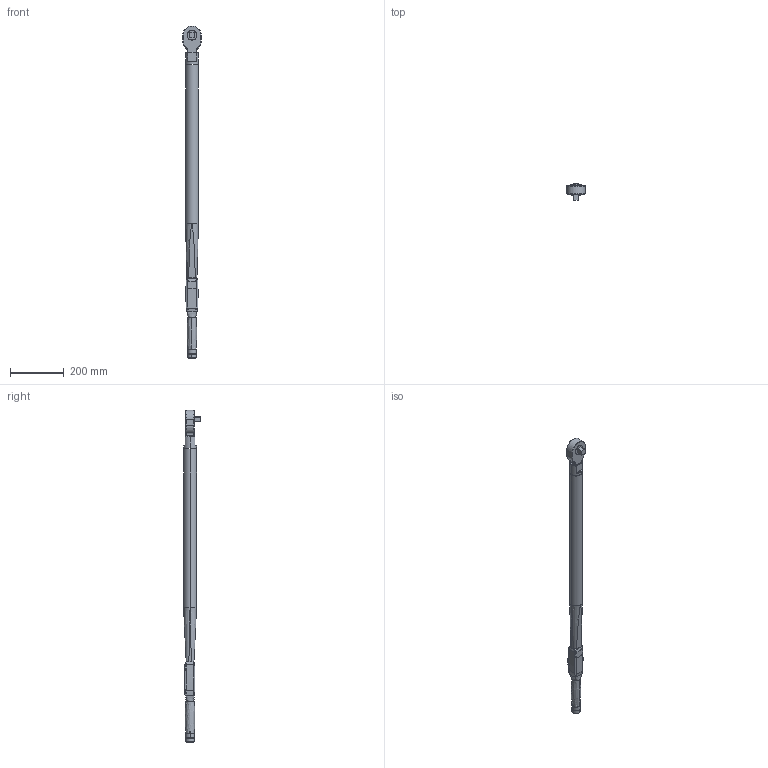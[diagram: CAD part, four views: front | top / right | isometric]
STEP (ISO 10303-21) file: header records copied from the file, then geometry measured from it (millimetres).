
FILE_DESCRIPTION((''),'2;1');
FILE_NAME('6159352140_DIM','2021-06-28T09:05:54',('S00000450'),(''),'CREO PARAMETRIC BY PTC INC, 2021072','CREO PARAMETRIC BY PTC INC, 2021072','');
FILE_SCHEMA(('AP242_MANAGED_MODEL_BASED_3D_ENGINEERING_MIM_LF { 1 0 10303 442 1 1 4 }'));
Length unit declared in the file: millimetre
Products named in the file (1): 6159352140_DIM
Bounding box: 69 x 62.5 x 1234.5 mm (x, y, z)
Surface area: 186317.6 mm2 (no closed solid volume)
Topology: 0 solids, 26 shells, 184 faces, 607 edges, 431 vertices
Faces by surface type: cylinder 54, bspline 52, plane 43, cone 16, torus 10, extrusion 9
Entity records: 13946 total; most frequent: CARTESIAN_POINT 8407, ORIENTED_EDGE 907, DIRECTION 817, EDGE_CURVE 606, VERTEX_POINT 431, AXIS2_PLACEMENT_3D 321, B_SPLINE_CURVE_WITH_KNOTS 251, CIRCLE 198
